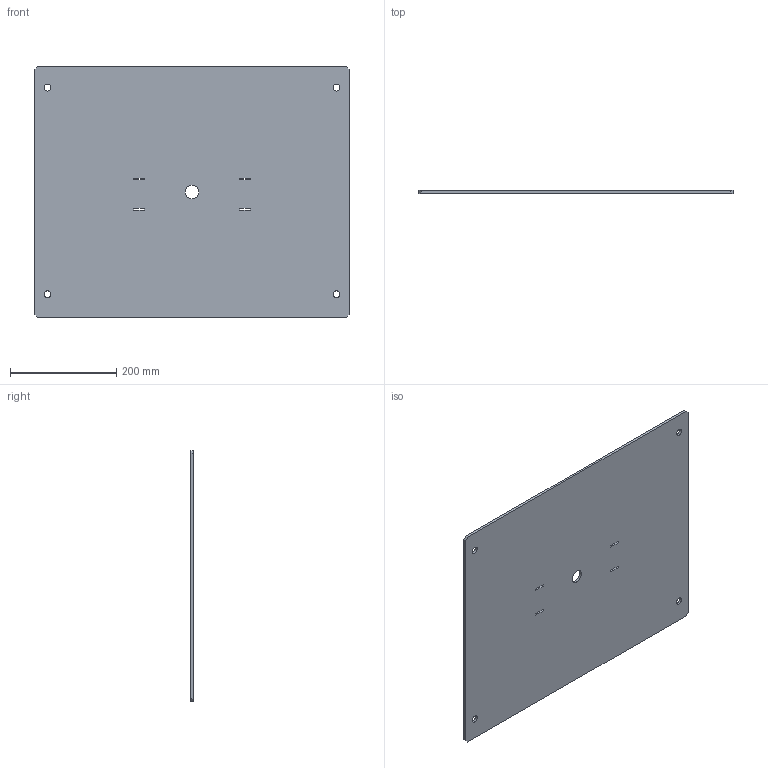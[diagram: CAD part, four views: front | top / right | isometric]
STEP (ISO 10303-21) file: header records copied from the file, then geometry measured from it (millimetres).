
FILE_DESCRIPTION (( 'STEP AP203' ), '1' );
FILE_NAME ('ORW-72.24.30.001 Äíî.STEP', '2025-10-13T13:18:11', ( 'Àíäðåé' ), ( '' ), 'SwSTEP 2.0', 'SolidWorks 2025', '' );
FILE_SCHEMA (( 'CONFIG_CONTROL_DESIGN' ));
Length unit declared in the file: millimetre
Products named in the file (1): ORW-72.24.30.001 Дно
Bounding box: 593 x 5 x 473 mm (x, y, z)
Volume: 1395698.8 mm3; surface area: 571042.4 mm2
Topology: 1 solids, 1 shells, 31 faces, 87 edges, 58 vertices
Faces by surface type: plane 26, cylinder 5
Full cylindrical faces by diameter (mm): 13 x4, 25 x1
Entity records: 1061 total; most frequent: CARTESIAN_POINT 188, ORIENTED_EDGE 164, DIRECTION 140, EDGE_CURVE 82, VERTEX_POINT 58, VECTOR 56, LINE 56, EDGE_LOOP 54
